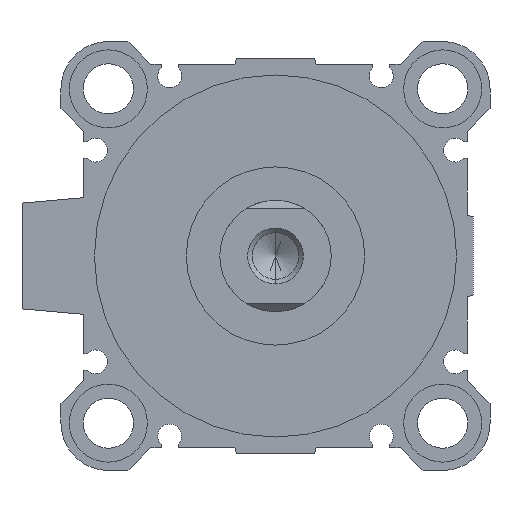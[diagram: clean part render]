
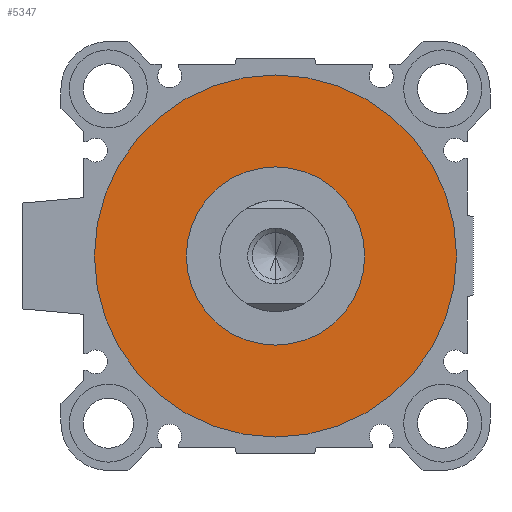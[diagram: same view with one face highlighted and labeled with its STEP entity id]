
A CAD part, left-side view. The second image highlights one B-rep face of the part: STEP entity #5347.
In plain terms, the highlighted planar face has unit normal (-1, 0, 0).
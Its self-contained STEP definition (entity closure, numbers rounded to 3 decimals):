
#9 = CARTESIAN_POINT ( 'NONE',  ( 4., 0., -32.5 ) ) ;
#15 = EDGE_LOOP ( 'NONE', ( #4480, #5266 ) ) ;
#31 = EDGE_CURVE ( 'NONE', #1996, #1556, #4526, .T. ) ;
#187 = DIRECTION ( 'NONE',  ( 1., 0., 0. ) ) ;
#369 = EDGE_CURVE ( 'NONE', #1556, #1996, #2699, .T. ) ;
#507 = AXIS2_PLACEMENT_3D ( 'NONE', #4838, #2748, #690 ) ;
#598 = PLANE ( 'NONE',  #4043 ) ;
#690 = DIRECTION ( 'NONE',  ( 0., 0., -1. ) ) ;
#751 = AXIS2_PLACEMENT_3D ( 'NONE', #2378, #1501, #2762 ) ;
#1110 = DIRECTION ( 'NONE',  ( 1., 0., 0. ) ) ;
#1206 = CARTESIAN_POINT ( 'NONE',  ( 4., 0., 0. ) ) ;
#1501 = DIRECTION ( 'NONE',  ( 1., 0., 0. ) ) ;
#1556 = VERTEX_POINT ( 'NONE', #3097 ) ;
#1693 = AXIS2_PLACEMENT_3D ( 'NONE', #1206, #2881, #1705 ) ;
#1705 = DIRECTION ( 'NONE',  ( 0., 0., -1. ) ) ;
#1716 = VERTEX_POINT ( 'NONE', #4797 ) ;
#1855 = DIRECTION ( 'NONE',  ( 0., 1., 0. ) ) ;
#1996 = VERTEX_POINT ( 'NONE', #9 ) ;
#2169 = EDGE_LOOP ( 'NONE', ( #5428, #5129 ) ) ;
#2378 = CARTESIAN_POINT ( 'NONE',  ( 4., 0., 0. ) ) ;
#2676 = FACE_OUTER_BOUND ( 'NONE', #15, .T. ) ;
#2699 = CIRCLE ( 'NONE', #3405, 32.5 ) ;
#2748 = DIRECTION ( 'NONE',  ( 1., 0., 0. ) ) ;
#2759 = EDGE_CURVE ( 'NONE', #1716, #4778, #4044, .T. ) ;
#2762 = DIRECTION ( 'NONE',  ( 0., 0., -1. ) ) ;
#2881 = DIRECTION ( 'NONE',  ( 1., 0., 0. ) ) ;
#3097 = CARTESIAN_POINT ( 'NONE',  ( 4., 0., 32.5 ) ) ;
#3199 = CARTESIAN_POINT ( 'NONE',  ( 4., 0., 0. ) ) ;
#3384 = CIRCLE ( 'NONE', #751, 16. ) ;
#3405 = AXIS2_PLACEMENT_3D ( 'NONE', #3199, #1110, #3588 ) ;
#3588 = DIRECTION ( 'NONE',  ( 0., 0., -1. ) ) ;
#3938 = CARTESIAN_POINT ( 'NONE',  ( 4., 0., 0. ) ) ;
#4043 = AXIS2_PLACEMENT_3D ( 'NONE', #3938, #187, #1855 ) ;
#4044 = CIRCLE ( 'NONE', #1693, 16. ) ;
#4248 = CARTESIAN_POINT ( 'NONE',  ( 4., 0., -16. ) ) ;
#4348 = FACE_BOUND ( 'NONE', #2169, .T. ) ;
#4352 = EDGE_CURVE ( 'NONE', #4778, #1716, #3384, .T. ) ;
#4480 = ORIENTED_EDGE ( 'NONE', *, *, #369, .F. ) ;
#4526 = CIRCLE ( 'NONE', #507, 32.5 ) ;
#4778 = VERTEX_POINT ( 'NONE', #4248 ) ;
#4797 = CARTESIAN_POINT ( 'NONE',  ( 4., 0., 16. ) ) ;
#4838 = CARTESIAN_POINT ( 'NONE',  ( 4., 0., 0. ) ) ;
#5129 = ORIENTED_EDGE ( 'NONE', *, *, #4352, .T. ) ;
#5266 = ORIENTED_EDGE ( 'NONE', *, *, #31, .F. ) ;
#5347 = ADVANCED_FACE ( 'NONE', ( #2676, #4348 ), #598, .F. ) ;
#5428 = ORIENTED_EDGE ( 'NONE', *, *, #2759, .T. ) ;
